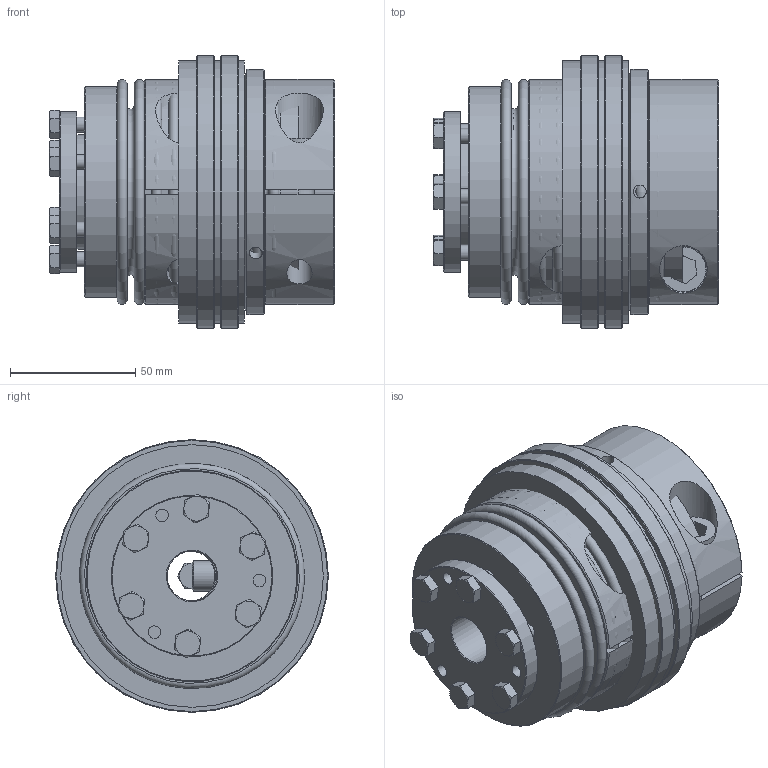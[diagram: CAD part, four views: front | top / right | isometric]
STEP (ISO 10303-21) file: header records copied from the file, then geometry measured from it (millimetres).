
FILE_DESCRIPTION( ( 'Unknown' ), '1' );
FILE_NAME( 'C:/Dokumente und Einstellungen/SKarpstein/Desktop/Korrigierte 3D Modelle/KBK-B-IK/KBK-BIK-200-114.stp', 'Unknown', ( 'Unknown' ), ( 'Unknown' ), 'XStep 1.0', 'Unknown', ' ' );
FILE_SCHEMA( ( 'automotive_design' ) );
Length unit declared in the file: millimetre
Products named in the file (13): Assem1; Assem2; Assem3; Zylinderschraube DIN 912_2; BA200_Standard_3; Hex Screw GradeC_ISO_ISO 4018 - M6 x 25-NN_3; KB200_Standard_3; Stellring 200; Druckring 200; KBK L-K-200 Grundkörper; Klemmnabe 200; Flansch BK200; BK200_Standard_0
Bounding box: 113.95 x 109 x 109 mm (x, y, z)
Volume: 1245242 mm3; surface area: 428738 mm2
Topology: 34 solids, 34 shells, 631 faces, 1332 edges, 852 vertices
Faces by surface type: plane 259, cone 176, cylinder 151, torus 45
Full cylindrical faces by diameter (mm): 3.242 x6, 5 x9, 5.2 x12, 6 x31, 6.5 x18, 10.106 x2, 12 x3, 12.5 x2, 18 x3, 19 x2, 20 x5, 45 x2, 46 x3, 47 x2, 50 x4, 60 x2, 62 x2, 63 x3, 64.5 x3, 65 x2, 66 x4, 77 x2, 79.2 x4, 80.4 x4, 84.5 x3, 90 x2, 98 x2, 105 x4, 109 x2
Entity records: 5458 total; most frequent: CARTESIAN_POINT 1294, DIRECTION 854, ORIENTED_EDGE 536, AXIS2_PLACEMENT_3D 404, EDGE_LOOP 394, FACE_OUTER_BOUND 273, EDGE_CURVE 268, VERTEX_POINT 236
